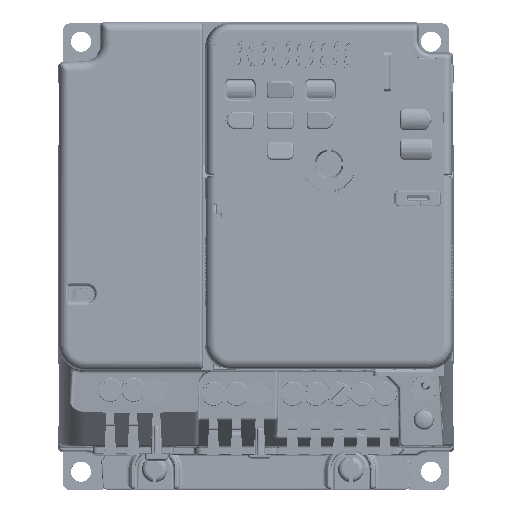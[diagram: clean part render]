
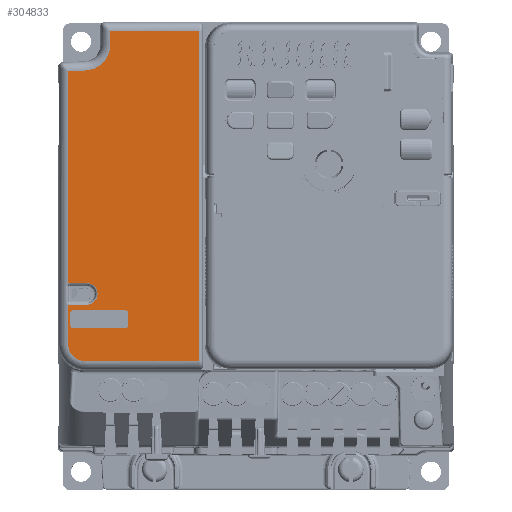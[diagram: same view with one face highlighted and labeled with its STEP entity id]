
A CAD part, top view. The second image highlights one B-rep face of the part: STEP entity #304833.
In plain terms, the highlighted planar face has unit normal (0, 0, 1).
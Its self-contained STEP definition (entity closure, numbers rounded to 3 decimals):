
#218832=DIRECTION('',(0.,-1.,0.));
#218833=VECTOR('',#218832,3.73);
#218834=CARTESIAN_POINT('',(-40.,125.5,
115.8));
#218835=LINE('',#218834,#218833);
#218840=CARTESIAN_POINT('',(-40.,125.5,
115.8));
#218875=CARTESIAN_POINT('',(-15.622,125.5,115.8));
#218877=DIRECTION('',(-1.,0.,0.));
#218878=VECTOR('',#218877,24.378);
#218879=CARTESIAN_POINT('',(-15.622,125.5,115.8));
#218880=LINE('',#218879,#218878);
#237241=CARTESIAN_POINT('',(-15.622,35.1,
115.8));
#237254=DIRECTION('',(1.,0.,0.));
#237255=VECTOR('',#237254,31.378);
#237256=CARTESIAN_POINT('',(-47.,35.1,115.8));
#237257=LINE('',#237256,#237255);
#237273=CARTESIAN_POINT('',(-51.044,56.544,
115.8));
#237274=CARTESIAN_POINT('',(-51.097,56.544,
115.8));
#237275=CARTESIAN_POINT('',(-51.201,56.535,
115.8));
#237276=CARTESIAN_POINT('',(-51.356,56.498,
115.8));
#237277=CARTESIAN_POINT('',(-51.453,56.458,
115.8));
#237278=CARTESIAN_POINT('',(-51.5,56.434,115.8));
#237280=DIRECTION('',(0.999,0.052,0.));
#237281=VECTOR('',#237280,4.873);
#237282=CARTESIAN_POINT('',(-51.5,114.525,115.8));
#237283=LINE('',#237282,#237281);
#237284=CARTESIAN_POINT('',(-47.,121.77,115.8));
#237285=DIRECTION('',(0.,0.,1.));
#237286=DIRECTION('',(0.052,-0.999,0.));
#237287=AXIS2_PLACEMENT_3D('',#237284,#237285,#237286);
#237289=CARTESIAN_POINT('',(-47.,39.6,115.8));
#237290=DIRECTION('',(0.,0.,-1.));
#237291=DIRECTION('',(0.,-1.,0.));
#237292=AXIS2_PLACEMENT_3D('',#237289,#237290,#237291);
#237294=CARTESIAN_POINT('',(-51.5,50.566,115.8));
#237295=CARTESIAN_POINT('',(-51.453,50.542,
115.8));
#237296=CARTESIAN_POINT('',(-51.356,50.502,
115.8));
#237297=CARTESIAN_POINT('',(-51.201,50.465,
115.8));
#237298=CARTESIAN_POINT('',(-51.097,50.456,
115.8));
#237299=CARTESIAN_POINT('',(-51.044,50.456,
115.8));
#237301=CARTESIAN_POINT('',(-46.5,53.5,115.8));
#237302=DIRECTION('',(0.,0.,1.));
#237303=DIRECTION('',(0.,-1.,0.));
#237304=AXIS2_PLACEMENT_3D('',#237301,#237302,#237303);
#237306=CARTESIAN_POINT('',(-50.,45.,115.8));
#237307=DIRECTION('',(0.,0.,1.));
#237308=DIRECTION('',(-1.,0.,0.));
#237309=AXIS2_PLACEMENT_3D('',#237306,#237307,#237308);
#237311=CARTESIAN_POINT('',(-36.,45.,115.8));
#237312=DIRECTION('',(0.,0.,1.));
#237313=DIRECTION('',(0.,-1.,0.));
#237314=AXIS2_PLACEMENT_3D('',#237311,#237312,#237313);
#237316=CARTESIAN_POINT('',(-36.,48.,115.8));
#237317=DIRECTION('',(0.,0.,1.));
#237318=DIRECTION('',(1.,0.,0.));
#237319=AXIS2_PLACEMENT_3D('',#237316,#237317,#237318);
#237321=CARTESIAN_POINT('',(-50.,48.,115.8));
#237322=DIRECTION('',(0.,0.,1.));
#237323=DIRECTION('',(0.,1.,0.));
#237324=AXIS2_PLACEMENT_3D('',#237321,#237322,#237323);
#237326=DIRECTION('',(1.,0.,0.));
#237327=VECTOR('',#237326,4.544);
#237328=CARTESIAN_POINT('',(-51.044,56.544,
115.8));
#237329=LINE('',#237328,#237327);
#237371=DIRECTION('',(-1.,0.,0.));
#237372=VECTOR('',#237371,4.544);
#237373=CARTESIAN_POINT('',(-46.5,50.456,115.8));
#237374=LINE('',#237373,#237372);
#237405=DIRECTION('',(0.,-1.,0.));
#237406=VECTOR('',#237405,10.966);
#237407=CARTESIAN_POINT('',(-51.5,50.566,115.8));
#237408=LINE('',#237407,#237406);
#237423=DIRECTION('',(0.,-1.,0.));
#237424=VECTOR('',#237423,58.091);
#237425=CARTESIAN_POINT('',(-51.5,114.525,115.8));
#237426=LINE('',#237425,#237424);
#237704=DIRECTION('',(0.,1.,0.));
#237705=VECTOR('',#237704,90.4);
#237706=CARTESIAN_POINT('',(-15.622,35.1,
115.8));
#237707=LINE('',#237706,#237705);
#237712=DIRECTION('',(0.,1.,0.));
#237713=VECTOR('',#237712,3.);
#237714=CARTESIAN_POINT('',(-51.,45.,115.8));
#237715=LINE('',#237714,#237713);
#238068=DIRECTION('',(1.,0.,0.));
#238069=VECTOR('',#238068,14.);
#238070=CARTESIAN_POINT('',(-50.,49.,115.8));
#238071=LINE('',#238070,#238069);
#238080=DIRECTION('',(0.,-1.,0.));
#238081=VECTOR('',#238080,3.);
#238082=CARTESIAN_POINT('',(-35.,48.,115.8));
#238083=LINE('',#238082,#238081);
#238092=DIRECTION('',(-1.,0.,0.));
#238093=VECTOR('',#238092,14.);
#238094=CARTESIAN_POINT('',(-36.,44.,115.8));
#238095=LINE('',#238094,#238093);
#266629=VERTEX_POINT('',#218840);
#266630=CARTESIAN_POINT('',(-40.,121.77,115.8));
#266631=VERTEX_POINT('',#266630);
#266632=VERTEX_POINT('',#218875);
#271637=VERTEX_POINT('',#237241);
#271638=CARTESIAN_POINT('',(-47.,35.1,115.8));
#271639=VERTEX_POINT('',#271638);
#271640=CARTESIAN_POINT('',(-51.5,39.6,115.8));
#271641=VERTEX_POINT('',#271640);
#271642=CARTESIAN_POINT('',(-51.044,56.544,
115.8));
#271643=CARTESIAN_POINT('',(-46.5,56.544,115.8));
#271644=VERTEX_POINT('',#271642);
#271645=VERTEX_POINT('',#271643);
#271646=VERTEX_POINT('',#237278);
#271647=CARTESIAN_POINT('',(-51.5,114.525,115.8));
#271648=VERTEX_POINT('',#271647);
#271649=CARTESIAN_POINT('',(-46.634,114.78,115.8));
#271650=VERTEX_POINT('',#271649);
#271651=CARTESIAN_POINT('',(-51.5,50.566,115.8));
#271652=VERTEX_POINT('',#271651);
#271653=VERTEX_POINT('',#237299);
#271654=CARTESIAN_POINT('',(-46.5,50.456,115.8));
#271655=VERTEX_POINT('',#271654);
#271656=CARTESIAN_POINT('',(-51.,45.,115.8));
#271657=CARTESIAN_POINT('',(-51.,48.,115.8));
#271658=VERTEX_POINT('',#271656);
#271659=VERTEX_POINT('',#271657);
#271660=CARTESIAN_POINT('',(-50.,44.,115.8));
#271661=VERTEX_POINT('',#271660);
#271662=CARTESIAN_POINT('',(-36.,44.,115.8));
#271663=VERTEX_POINT('',#271662);
#271664=CARTESIAN_POINT('',(-35.,45.,115.8));
#271665=VERTEX_POINT('',#271664);
#271666=CARTESIAN_POINT('',(-35.,48.,115.8));
#271667=VERTEX_POINT('',#271666);
#271668=CARTESIAN_POINT('',(-36.,49.,115.8));
#271669=VERTEX_POINT('',#271668);
#271670=CARTESIAN_POINT('',(-50.,49.,115.8));
#271671=VERTEX_POINT('',#271670);
#304784=CARTESIAN_POINT('',(0.,0.,115.8));
#304785=DIRECTION('',(0.,0.,1.));
#304786=DIRECTION('',(1.,0.,0.));
#304787=AXIS2_PLACEMENT_3D('',#304784,#304785,#304786);
#304788=PLANE('',#304787);
#304790=ORIENTED_EDGE('',*,*,#304789,.F.);
#304792=ORIENTED_EDGE('',*,*,#304791,.T.);
#304794=ORIENTED_EDGE('',*,*,#304793,.F.);
#304796=ORIENTED_EDGE('',*,*,#304795,.T.);
#304798=ORIENTED_EDGE('',*,*,#304797,.T.);
#304799=ORIENTED_EDGE('',*,*,#283077,.F.);
#304800=ORIENTED_EDGE('',*,*,#283154,.F.);
#304802=ORIENTED_EDGE('',*,*,#304801,.F.);
#304803=ORIENTED_EDGE('',*,*,#304764,.F.);
#304804=ORIENTED_EDGE('',*,*,#304774,.T.);
#304806=ORIENTED_EDGE('',*,*,#304805,.F.);
#304808=ORIENTED_EDGE('',*,*,#304807,.T.);
#304810=ORIENTED_EDGE('',*,*,#304809,.F.);
#304812=ORIENTED_EDGE('',*,*,#304811,.T.);
#304813=EDGE_LOOP('',(#304790,#304792,#304794,#304796,#304798,#304799,#304800,
#304802,#304803,#304804,#304806,#304808,#304810,#304812));
#304814=FACE_OUTER_BOUND('',#304813,.F.);
#304816=ORIENTED_EDGE('',*,*,#304815,.F.);
#304818=ORIENTED_EDGE('',*,*,#304817,.T.);
#304820=ORIENTED_EDGE('',*,*,#304819,.F.);
#304822=ORIENTED_EDGE('',*,*,#304821,.T.);
#304824=ORIENTED_EDGE('',*,*,#304823,.F.);
#304826=ORIENTED_EDGE('',*,*,#304825,.T.);
#304828=ORIENTED_EDGE('',*,*,#304827,.F.);
#304830=ORIENTED_EDGE('',*,*,#304829,.T.);
#304831=EDGE_LOOP('',(#304816,#304818,#304820,#304822,#304824,#304826,#304828,
#304830));
#304832=FACE_BOUND('',#304831,.F.);
#304833=ADVANCED_FACE('',(#304814,#304832),#304788,.T.);
#237279=B_SPLINE_CURVE_WITH_KNOTS('',3,(#237273,#237274,#237275,#237276,#237277,
#237278),.UNSPECIFIED.,.F.,.F.,(4,1,1,4),(0.,0.333,
0.667,1.),.UNSPECIFIED.);
#237288=CIRCLE('',#237287,7.);
#237293=CIRCLE('',#237292,4.5);
#237300=B_SPLINE_CURVE_WITH_KNOTS('',3,(#237294,#237295,#237296,#237297,#237298,
#237299),.UNSPECIFIED.,.F.,.F.,(4,1,1,4),(0.,0.333,
0.667,1.),.UNSPECIFIED.);
#237305=CIRCLE('',#237304,3.044);
#237310=CIRCLE('',#237309,1.);
#237315=CIRCLE('',#237314,1.);
#237320=CIRCLE('',#237319,1.);
#237325=CIRCLE('',#237324,1.);
#283077=EDGE_CURVE('',#266629,#266631,#218835,.T.);
#283154=EDGE_CURVE('',#266632,#266629,#218880,.T.);
#304764=EDGE_CURVE('',#271639,#271637,#237257,.T.);
#304774=EDGE_CURVE('',#271639,#271641,#237293,.T.);
#304789=EDGE_CURVE('',#271644,#271645,#237329,.T.);
#304791=EDGE_CURVE('',#271644,#271646,#237279,.T.);
#304793=EDGE_CURVE('',#271648,#271646,#237426,.T.);
#304795=EDGE_CURVE('',#271648,#271650,#237283,.T.);
#304797=EDGE_CURVE('',#271650,#266631,#237288,.T.);
#304801=EDGE_CURVE('',#271637,#266632,#237707,.T.);
#304805=EDGE_CURVE('',#271652,#271641,#237408,.T.);
#304807=EDGE_CURVE('',#271652,#271653,#237300,.T.);
#304809=EDGE_CURVE('',#271655,#271653,#237374,.T.);
#304811=EDGE_CURVE('',#271655,#271645,#237305,.T.);
#304815=EDGE_CURVE('',#271658,#271659,#237715,.T.);
#304817=EDGE_CURVE('',#271658,#271661,#237310,.T.);
#304819=EDGE_CURVE('',#271663,#271661,#238095,.T.);
#304821=EDGE_CURVE('',#271663,#271665,#237315,.T.);
#304823=EDGE_CURVE('',#271667,#271665,#238083,.T.);
#304825=EDGE_CURVE('',#271667,#271669,#237320,.T.);
#304827=EDGE_CURVE('',#271671,#271669,#238071,.T.);
#304829=EDGE_CURVE('',#271671,#271659,#237325,.T.);
